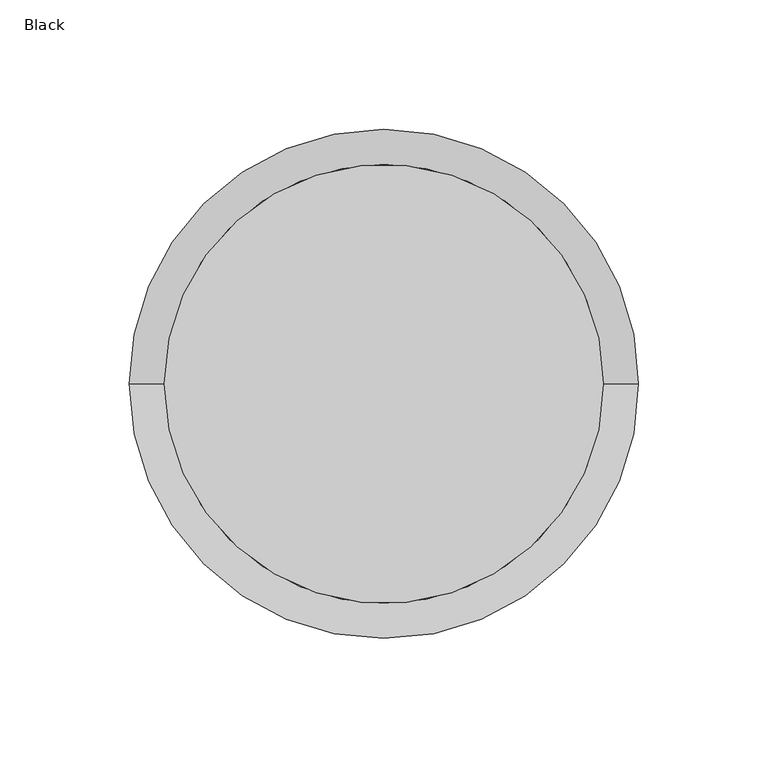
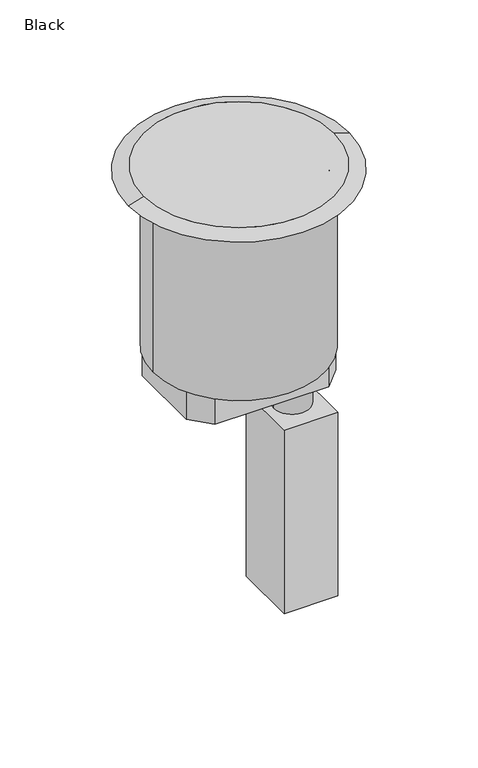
"""IFC4 building model written with IfcOpenShell, lengths in millimetres: proxy geometry, Poke_Thru-Evolution_6AT_Series-Wiremold-Furniture_Feed : Black."""

from ifc_helpers import new_model, si_unit, point, frame, frame_2d, origin, origin_with_axes, place, context, project, spatial, polyline, circle_curve, trimmed, segment, composite_curve, outline, extrude, source, transform, mapped, element, save
from ifc_brep_helpers import plane_surface, cylinder_surface, revolved_surface, advanced_brep


def black_919d1eb7(model_context):
    return source(origin(), model_context, "Body", "SolidModel", [
        advanced_brep(
        [(84.83981, 0.0, 4.2164), (-84.83981, 0.0, 4.2164), (98.425, 0.0, 0.0), (-98.425, 0.0, 0.0)],
        [
            (0, 1, circle_curve(frame((0.0, 0.0, 4.2164), z_axis=(0.0, 0.0, 1.0), x_axis=(1.0, 0.0, 0.0)), 84.83981)),
            (1, 0, circle_curve(frame((0.0, 0.0, 4.2164), z_axis=(0.0, 0.0, 1.0), x_axis=(-1.0, 0.0, 0.0)), 84.83981)),
            (2, 3, circle_curve(frame((0.0, 0.0, 0.0), z_axis=(0.0, 0.0, -1.0), x_axis=(-1.0, 0.0, 0.0)), 98.425)),
            (3, 2, circle_curve(frame((0.0, 0.0, 0.0), z_axis=(0.0, 0.0, -1.0), x_axis=(1.0, 0.0, 0.0)), 98.425)),
            (3, 1),
            (0, 2),
        ],
        [
            plane_surface(frame((0.0, 0.0, 4.2164), z_axis=(0.0, 0.0, 1.0), x_axis=(0.0, -1.0, 0.0))),
            plane_surface(frame((0.0, 0.0, 0.0), z_axis=(0.0, 0.0, -1.0), x_axis=(0.0, -1.0, 0.0))),
            revolved_surface(polyline([(84.83980998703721, 0.0, 4.2164), (98.425, 0.0, 0.0)]), (0.0, 0.0, 30.5479106), (0.0, 0.0, -1.0)),
            revolved_surface(polyline([(-84.83980998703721, 0.0, 4.2164), (-98.425, 0.0, 0.0)]), (0.0, 0.0, 30.5479106), (0.0, 0.0, -1.0)),
        ],
        [
            (0, [[1, 2]]),
            (1, [[3, 4]]),
            (2, [[-4, 5, -1, 6]]),
            (3, [[-3, -6, -2, -5]]),
        ],
    ),
        advanced_brep(
        [(69.85, 0.0, -6.35), (-69.85, 0.0, -6.35), (-76.2, 0.0, -165.1), (76.2, 0.0, -165.1), (76.2, 0.0, -6.35), (-76.2, 0.0, -6.35), (-76.2, 0.0, 0.0), (76.2, 0.0, 0.0), (-69.85, 0.0, 0.0), (69.85, 0.0, 0.0)],
        [
            (0, 1, circle_curve(frame((0.0, 0.0, -6.35), z_axis=(0.0, 0.0, 1.0), x_axis=(1.0, 0.0, 0.0)), 69.85)),
            (1, 0, circle_curve(frame((0.0, 0.0, -6.35), z_axis=(0.0, 0.0, 1.0), x_axis=(1.0, 0.0, 0.0)), 69.85)),
            (2, 3, circle_curve(frame((0.0, 0.0, -165.1), z_axis=(0.0, 0.0, -1.0), x_axis=(1.0, 0.0, 0.0)), 76.2)),
            (3, 2, circle_curve(frame((0.0, 0.0, -165.1), z_axis=(0.0, 0.0, -1.0), x_axis=(1.0, 0.0, 0.0)), 76.2)),
            (3, 4),
            (4, 5, circle_curve(frame((0.0, 0.0, -6.35), z_axis=(0.0, 0.0, -1.0), x_axis=(1.0, 0.0, 0.0)), 76.2)),
            (5, 2),
            (5, 4, circle_curve(frame((0.0, 0.0, -6.35), z_axis=(0.0, 0.0, -1.0), x_axis=(1.0, 0.0, 0.0)), 76.2)),
            (6, 7, circle_curve(origin_with_axes(), 76.2)),
            (7, 6, circle_curve(origin_with_axes(), 76.2)),
            (8, 9, circle_curve(frame((0.0, 0.0, 0.0), z_axis=(0.0, 0.0, -1.0), x_axis=(1.0, 0.0, 0.0)), 69.85)),
            (9, 8, circle_curve(frame((0.0, 0.0, 0.0), z_axis=(0.0, 0.0, -1.0), x_axis=(1.0, 0.0, 0.0)), 69.85)),
            (6, 5),
            (4, 7),
            (8, 1),
            (0, 9),
        ],
        [
            plane_surface(frame((76.2, 0.0, -6.35), z_axis=(0.0, 0.0, 1.0), x_axis=(0.0, 1.0, 0.0))),
            plane_surface(frame((76.2, 0.0, -165.1), z_axis=(0.0, 0.0, -1.0), x_axis=(0.0, -1.0, 0.0))),
            cylinder_surface(frame((0.0, 0.0, -165.1), z_axis=(0.0, 0.0, 1.0), x_axis=(1.0, 0.0, 0.0)), 76.2),
            plane_surface(frame((76.2, 0.0, 0.0), z_axis=(0.0, 0.0, 1.0), x_axis=(0.0, 1.0, 0.0))),
            cylinder_surface(frame((0.0, 0.0, -6.35), z_axis=(0.0, 0.0, 1.0), x_axis=(1.0, 0.0, 0.0)), 76.2),
            revolved_surface(polyline([(69.85, 0.0, -6.35), (69.85, 0.0, 0.0)]), (0.0, 0.0, 0.0), (0.0, 0.0, -1.0)),
        ],
        [
            (0, [[1, 2]]),
            (1, [[3, 4]]),
            (2, [[-4, 5, 6, 7]]),
            (2, [[-3, -7, 8, -5]]),
            (3, [[9, 10], [11, 12]]),
            (4, [[-9, 13, -6, 14]]),
            (4, [[-10, -14, -8, -13]]),
            (5, [[-11, 15, -1, 16]]),
            (5, [[-12, -16, -2, -15]]),
        ],
    ),
        extrude(outline(polyline([(50.8, 50.8), (66.675, 34.036), (66.675, -34.036), (50.8, -50.8), (-50.8, -50.8), (-66.675, -34.036), (-66.675, 34.036), (-50.8, 50.8), (50.8, 50.8)])), frame((0.0, 0.0, -192.1002), z_axis=(0.0, 0.0, 1.0), x_axis=(1.0, 0.0, 0.0)), (0.0, 0.0, 1.0), 27.0002),
        extrude(outline(composite_curve([segment(trimmed(circle_curve(frame_2d((47.244, 0.0)), 11.1252), [point((36.1188, 0.0))], [point((58.3692, 0.0))], False, "CARTESIAN"), True, "CONTINUOUS"), segment(trimmed(circle_curve(frame_2d((47.244, 0.0)), 11.1252), [point((58.3692, 0.0))], [point((36.1188, 0.0))], False, "CARTESIAN"), True, "CONTINUOUS")], self_intersect=False)), frame((0.0, 0.0, -217.5002), z_axis=(0.0, 0.0, 1.0), x_axis=(1.0, 0.0, 0.0)), (0.0, 0.0, 1.0), 25.4),
        extrude(outline(composite_curve([segment(trimmed(circle_curve(frame_2d((47.244, 0.0)), 16.0528), [point((31.1912, 0.0))], [point((63.2968, 0.0))], False, "CARTESIAN"), True, "CONTINUOUS"), segment(trimmed(circle_curve(frame_2d((47.244, 0.0)), 16.0528), [point((63.2968, 0.0))], [point((31.1912, 0.0))], False, "CARTESIAN"), True, "CONTINUOUS")], self_intersect=False)), frame((0.0, 0.0, -236.5502), z_axis=(0.0, 0.0, 1.0), x_axis=(1.0, 0.0, 0.0)), (0.0, 0.0, 1.0), 19.05),
        extrude(outline(polyline([(71.0438, 28.980332), (71.0438, -29.439668), (23.4442, -29.439668), (23.4442, 28.980332), (71.0438, 28.980332)])), frame((0.0, 0.0, -409.575), z_axis=(0.0, 0.0, 1.0), x_axis=(1.0, 0.0, 0.0)), (0.0, 0.0, 1.0), 173.0248),
    ])


if __name__ == "__main__":
    model = new_model("IFC4")
    model_context = context("Model", 3, world=origin())
    ifc_project = project(units=[si_unit("LENGTHUNIT", "METRE", prefix="MILLI")], contexts=[model_context])
    site = spatial("IfcSite", under=ifc_project)
    building = spatial("IfcBuilding", under=site)
    placement = place(None, origin())
    black_shape = black_919d1eb7(model_context)
    element("IfcBuildingElementProxy", 1, Name="Poke_Thru-Evolution_6AT_Series-Wiremold-Furniture_Feed : Black", ObjectType="Poke_Thru-Evolution_6AT_Series-Wiremold-Furniture_Feed : Black", at=placement, inside=building, context=model_context, shape_type="MappedRepresentation", body=[
        mapped(black_shape, transform((0.0, 0.0, 0.0), x_axis=(1.0, 0.0, 0.0), y_axis=(0.0, 1.0, 0.0), z_axis=(0.0, 0.0, 1.0))),
    ])
    save(model, "model.ifc")
